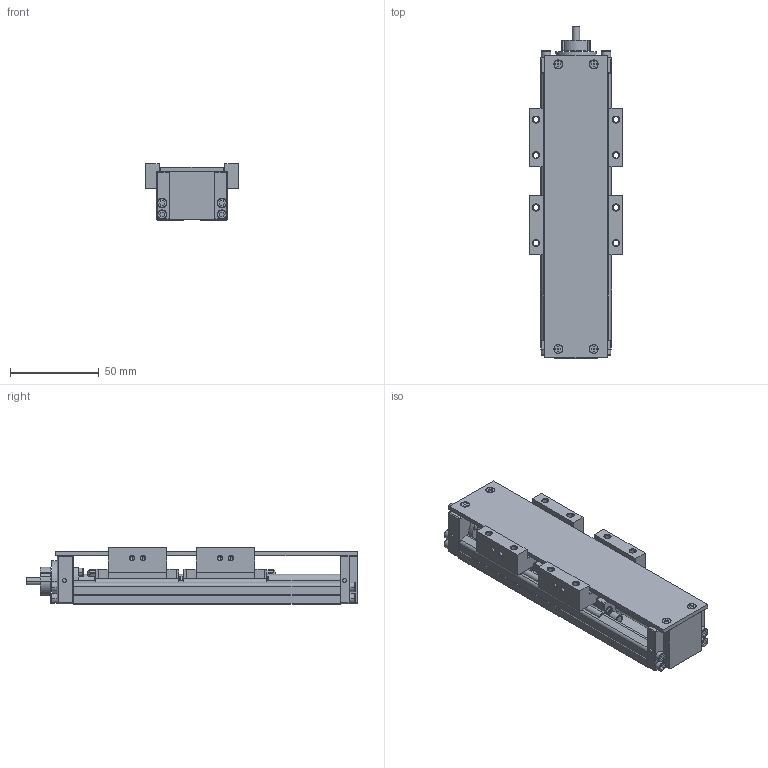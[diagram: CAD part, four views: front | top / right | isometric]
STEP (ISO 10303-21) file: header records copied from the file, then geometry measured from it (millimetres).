
FILE_DESCRIPTION(('no description'),'unknown implementation level');
FILE_NAME('KK4001P150A2H0C00_FILE_7.stp',' ',('HIWIN GmbH'),('CADClick - KiM GmbH - www.kimweb.de'),'unknown preprocess','ACIS','unknown authorization');
FILE_SCHEMA(('automotive_design'));
Length unit declared in the file: millimetre
Products named in the file (3): KK4001P150A2H0C00_FILE_1; KK40_FILE; KK4001P150A2H0C00_FILE
Bounding box: 52 x 186.5 x 32 mm (x, y, z)
Volume: 145532.1 mm3; surface area: 68973.5 mm2
Topology: 3 solids, 27 shells, 1336 faces, 3472 edges, 2210 vertices
Faces by surface type: plane 805, cylinder 387, cone 88, torus 52, sphere 4
Entity records: 81296 total; most frequent: CARTESIAN_POINT 8797, DIRECTION 7058, STYLED_ITEM 7005, PRESENTATION_STYLE_ASSIGNMENT 7005, COLOUR_RGB 7005, ORIENTED_EDGE 6912, EDGE_CURVE 3456, CURVE_STYLE 3456
